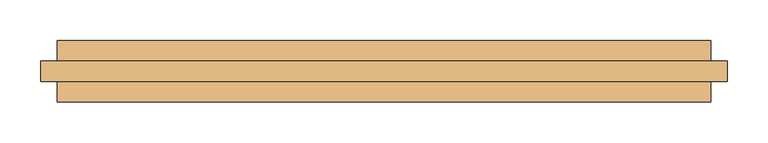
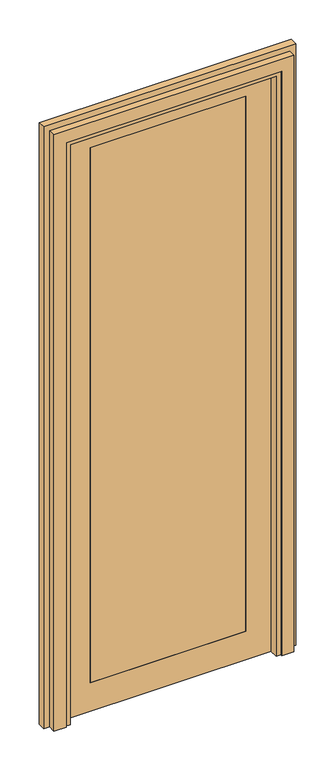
"""IFC4 building model written with IfcOpenShell, lengths in millimetres: door geometry, VERTI AERO - dveřní panel : AERO - dveřní panel."""

from ifc_helpers import new_model, si_unit, frame, origin, place, context, project, spatial, polyline, outline, extrude, faceted_brep, source, transform, mapped, element, save


def door_cc030a53(model_context):
    return source(origin(), model_context, "Body", "SolidModel", [
        extrude(outline(polyline([(259.0, 37.5), (259.0, 32.5), (-259.0, 32.5), (-259.0, 37.5), (259.0, 37.5)])), frame((0.0, 0.0, 100.0), z_axis=(0.0, 0.0, 1.0), x_axis=(1.0, 0.0, 0.0)), (0.0, 0.0, 1.0), 1884.0),
        extrude(outline(polyline([(259.0, -2.5), (-259.0, -2.5), (-259.0, 2.5), (259.0, 2.5), (259.0, -2.5)])), frame((0.0, 0.0, 100.0), z_axis=(0.0, 0.0, 1.0), x_axis=(1.0, 0.0, 0.0)), (0.0, 0.0, 1.0), 1884.0),
        extrude(outline(polyline([(2084.0, 359.0), (2084.0, -359.0), (0.0, -359.0), (0.0, 359.0), (2084.0, 359.0)]), holes=[polyline([(100.0, 259.0), (100.0, -259.0), (1984.0, -259.0), (1984.0, 259.0), (100.0, 259.0)])]), frame((0.0, -2.5, 0.0), z_axis=(0.0, 1.0, 0.0), x_axis=(0.0, 0.0, 1.0)), (0.0, 0.0, 1.0), 40.0),
        faceted_brep([(-359.0, -37.5, 0.0), (-400.0, -37.5, 0.0), (-400.0, -12.5, 0.0), (-420.0, -12.5, 0.0), (-420.0, 12.5, 0.0), (-400.0, 12.5, 0.0), (-400.0, 37.5, 0.0), (-359.0, 37.5, 0.0), (-359.0, -2.5, 0.0), (-343.0, -2.5, 0.0), (-343.0, -32.5, 0.0), (-359.0, -32.5, 0.0), (-359.0, -37.5, 2059.0), (359.0, -37.5, 2059.0), (359.0, -37.5, 0.0), (400.0, -37.5, 0.0), (400.0, -37.5, 2100.0), (-400.0, -37.5, 2100.0), (-400.0, -12.5, 2100.0), (400.0, -12.5, 2100.0), (400.0, -12.5, 0.0), (420.0, -12.5, 0.0), (420.0, -12.5, 2120.0), (-420.0, -12.5, 2120.0), (-420.0, 12.5, 2120.0), (420.0, 12.5, 2120.0), (420.0, 12.5, 0.0), (400.0, 12.5, 0.0), (400.0, 12.5, 2100.0), (-400.0, 12.5, 2100.0), (-400.0, 37.5, 2100.0), (400.0, 37.5, 2100.0), (400.0, 37.5, 0.0), (359.0, 37.5, 0.0), (359.0, 37.5, 2059.0), (-359.0, 37.5, 2059.0), (-359.0, -2.5, 2059.0), (359.0, -2.5, 2059.0), (359.0, -2.5, 0.0), (343.0, -2.5, 0.0), (343.0, -2.5, 2043.0), (-343.0, -2.5, 2043.0), (-343.0, -32.5, 2043.0), (343.0, -32.5, 2043.0), (343.0, -32.5, 0.0), (359.0, -32.5, 0.0), (359.0, -32.5, 2059.0), (-359.0, -32.5, 2059.0)], [[[0, 1, 2, 3, 4, 5, 6, 7, 8, 9, 10, 11]], [[1, 0, 12, 13, 14, 15, 16, 17]], [[2, 1, 17, 18]], [[3, 2, 18, 19, 20, 21, 22, 23]], [[4, 3, 23, 24]], [[5, 4, 24, 25, 26, 27, 28, 29]], [[6, 5, 29, 30]], [[7, 6, 30, 31, 32, 33, 34, 35]], [[8, 7, 35, 36]], [[9, 8, 36, 37, 38, 39, 40, 41]], [[10, 9, 41, 42]], [[11, 10, 42, 43, 44, 45, 46, 47]], [[0, 11, 47, 12]], [[13, 46, 45, 14]], [[14, 45, 44, 39, 38, 33, 32, 27, 26, 21, 20, 15]], [[19, 16, 15, 20]], [[31, 28, 27, 32]], [[37, 34, 33, 38]], [[43, 40, 39, 44]], [[25, 22, 21, 26]], [[12, 47, 46, 13]], [[18, 17, 16, 19]], [[30, 29, 28, 31]], [[36, 35, 34, 37]], [[42, 41, 40, 43]], [[24, 23, 22, 25]]]),
    ])


if __name__ == "__main__":
    model = new_model("IFC4")
    model_context = context("Model", 3, world=origin())
    ifc_project = project(units=[si_unit("LENGTHUNIT", "METRE", prefix="MILLI")], contexts=[model_context])
    site = spatial("IfcSite", under=ifc_project)
    building = spatial("IfcBuilding", under=site)
    placement = place(None, origin())
    door_shape = door_cc030a53(model_context)
    element("IfcDoor", 1, ObjectType="VERTI AERO - dveřní panel : AERO - dveřní panel", at=placement, inside=building, context=model_context, shape_type="MappedRepresentation", body=[
        mapped(door_shape, transform((0.0, 0.0, 0.0), x_axis=(1.0, 0.0, 0.0), y_axis=(0.0, 1.0, 0.0), z_axis=(0.0, 0.0, 1.0))),
    ])
    save(model, "model.ifc")
